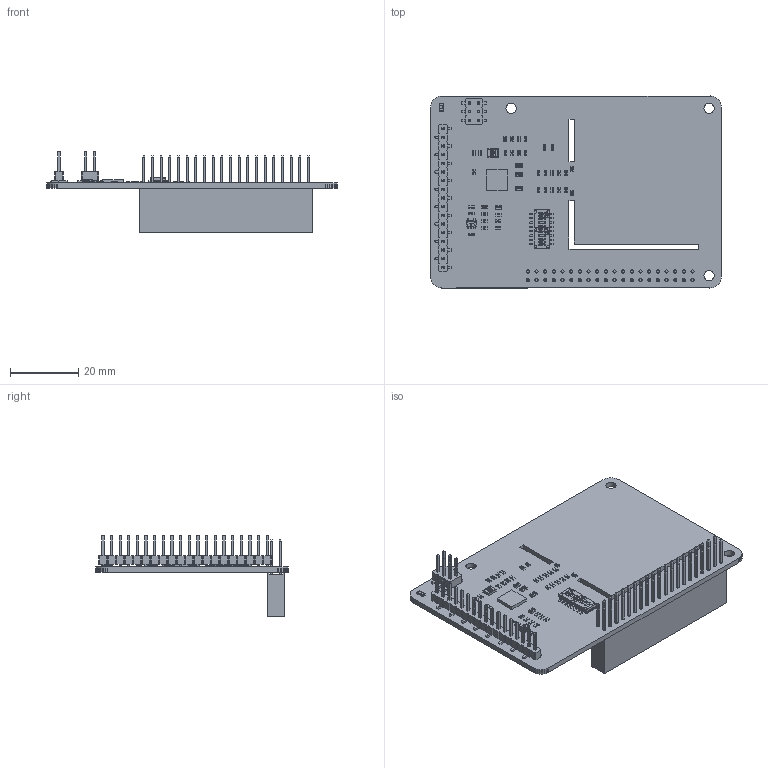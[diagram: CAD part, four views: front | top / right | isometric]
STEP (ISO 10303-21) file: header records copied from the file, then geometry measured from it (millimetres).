
FILE_DESCRIPTION((''),'2;1');
FILE_NAME('PN532_NFC_HAT_ASM','2023-04-27T17:34:18',('xiaojisheng'),(''),'CREO PARAMETRIC BY PTC INC, 2021063','CREO PARAMETRIC BY PTC INC, 2021063','');
FILE_SCHEMA(('CONFIG_CONTROL_DESIGN','SHAPE_APPEARANCE_LAYERS_GROUPS'));
Products named in the file (76): BOARD; R0603_1; R0603_2; R0603_ASM; R10_ASM; R9_ASM; XTAL-3225; Y1_ASM; USER_LIBRARY-SOT23-5_SOT23-5_CO; USER_LIBRARY-SOT23-5_SOT23-5_BO; USER_LIBRARY-SOT23-5_ASM; U2_ASM; EXTRUDED-50348; 601743248_ASM; U1_ASM; R8_ASM; R7_ASM; R4_ASM; R3_ASM; R2_ASM; R1_ASM; R0805_1; R0805_2; R0805_ASM; L4_ASM; L3_ASM; L2_ASM; L1_ASM; USER_LIBRARY-0603_SMD_CAPACITOR; C27_ASM; C26_ASM; C25_ASM; C24_ASM; C23_ASM; C22_ASM; C21_ASM; C20_ASM; C19_ASM; C18_ASM; C17_ASM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
Assembly tree (126 placements, depth 5):
  PN532_NFC_HAT_ASM
    PCB_ASM
      BOARD
      R10_ASM
        R0603_ASM
          R0603_1
          R0603_2
      R9_ASM
        R0603_ASM
          R0603_1
          R0603_2
      Y1_ASM
        XTAL-3225
      U2_ASM
        USER_LIBRARY-SOT23-5_ASM
          USER_LIBRARY-SOT23-5_SOT23-5_CO  x5
          USER_LIBRARY-SOT23-5_SOT23-5_BO
      U1_ASM
        601743248_ASM
          EXTRUDED-50348
      R8_ASM
        R0603_ASM
          R0603_1
          R0603_2
      R7_ASM
        R0603_ASM
          R0603_1
          R0603_2
      R4_ASM
        R0603_ASM
          R0603_1
          R0603_2
      R3_ASM
        R0603_ASM
          R0603_1
          R0603_2
      R2_ASM
        R0603_ASM
          R0603_1
          R0603_2
      R1_ASM
        R0603_ASM
          R0603_1
          R0603_2
      L4_ASM
        R0805_ASM
          R0805_1
          R0805_2
      L3_ASM
        R0805_ASM
          R0805_1
          R0805_2
      L2_ASM
        R0805_ASM
          R0805_1
          R0805_2
      L1_ASM
        R0805_ASM
          R0805_1
          R0805_2
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Bounding box: 85.28 x 56.28 x 23.9 mm (x, y, z)
Volume: 11115.8 mm3; surface area: 16575 mm2
Topology: 93 solids, 95 shells, 5860 faces, 14429 edges, 8974 vertices
Faces by surface type: plane 3219, extrusion 1704, cylinder 721, sphere 216
Entity records: 99938 total; most frequent: CARTESIAN_POINT 22646, ORIENTED_EDGE 11648, DIRECTION 10735, EDGE_CURVE 5828, PRESENTATION_STYLE_ASSIGNMENT 5377, VECTOR 5247, STYLED_ITEM 5077, LINE 5033
